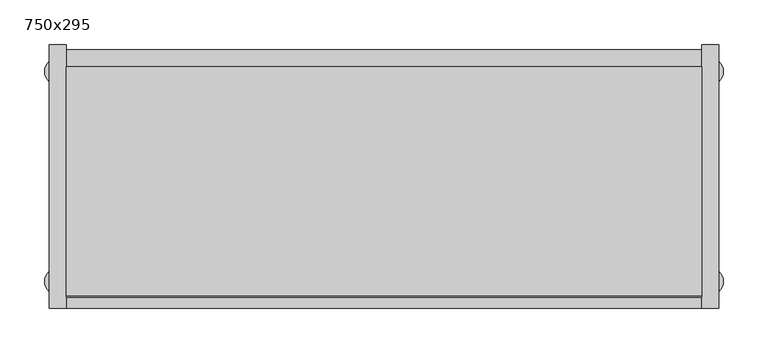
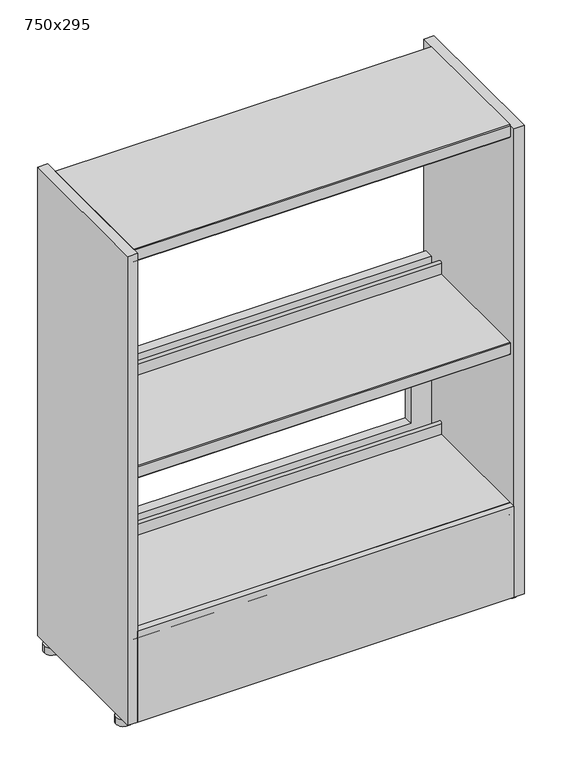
"""IFC4 building model written with IfcOpenShell, lengths in millimetres: furniture geometry, BK Library - Rondus ES - 950 : 750x295."""

from ifc_helpers import new_model, si_unit, point, frame, frame_2d, origin, origin_with_axes, place, context, project, spatial, polyline, circle_curve, trimmed, segment, composite_curve, outline, extrude, source, transform, mapped, element, save


def furniture_750x295_3e7eba69(model_context):
    return source(origin(), model_context, "Body", "SweptSolid", [
        extrude(outline(composite_curve([segment(trimmed(circle_curve(frame_2d((365.5005427, 117.4952633)), 14.4994573), [point((380.0, 117.4952633))], [point((351.0010853, 117.4952633))], False, "CARTESIAN"), True, "CONTINUOUS"), segment(trimmed(circle_curve(frame_2d((365.5005427, 117.4952633)), 14.4994573), [point((351.0010853, 117.4952633))], [point((380.0, 117.4952633))], False, "CARTESIAN"), True, "CONTINUOUS")], self_intersect=False)), origin_with_axes(), (0.0, 0.0, 1.0), 13.6999998),
        extrude(outline(composite_curve([segment(trimmed(circle_curve(frame_2d((-365.5005427, 117.4952633)), 14.4994573), [point((-380.0, 117.4952633))], [point((-351.0010853, 117.4952633))], False, "CARTESIAN"), True, "CONTINUOUS"), segment(trimmed(circle_curve(frame_2d((-365.5005427, 117.4952633)), 14.4994573), [point((-351.0010853, 117.4952633))], [point((-380.0, 117.4952633))], False, "CARTESIAN"), True, "CONTINUOUS")], self_intersect=False)), origin_with_axes(), (0.0, 0.0, 1.0), 13.6999998),
        extrude(outline(composite_curve([segment(trimmed(circle_curve(frame_2d((365.5005427, -117.4952633)), 14.4994573), [point((380.0, -117.4952633))], [point((351.0010853, -117.4952633))], False, "CARTESIAN"), True, "CONTINUOUS"), segment(trimmed(circle_curve(frame_2d((365.5005427, -117.4952633)), 14.4994573), [point((351.0010853, -117.4952633))], [point((380.0, -117.4952633))], False, "CARTESIAN"), True, "CONTINUOUS")], self_intersect=False)), origin_with_axes(), (0.0, 0.0, 1.0), 13.6999998),
        extrude(outline(composite_curve([segment(trimmed(circle_curve(frame_2d((-365.5005427, -117.4952633)), 14.4994573), [point((-380.0, -117.4952633))], [point((-351.0010853, -117.4952633))], False, "CARTESIAN"), True, "CONTINUOUS"), segment(trimmed(circle_curve(frame_2d((-365.5005427, -117.4952633)), 14.4994573), [point((-351.0010853, -117.4952633))], [point((-380.0, -117.4952633))], False, "CARTESIAN"), True, "CONTINUOUS")], self_intersect=False)), origin_with_axes(), (0.0, 0.0, 1.0), 13.6999998),
        extrude(outline(polyline([(530.699951, -356.0), (170.699951, -356.0), (170.699951, 356.0), (530.699951, 356.0), (530.699951, -356.0)]), holes=[polyline([(490.6999512, -317.5), (490.6999512, 317.5), (210.6999512, 317.5), (210.6999512, -317.5), (490.6999512, -317.5)])]), frame((0.0, 123.0, 0.0), z_axis=(0.0, 1.0, 0.0), x_axis=(0.0, 0.0, 1.0)), (0.0, 0.0, 1.0), 19.0),
        extrude(outline(polyline([(356.0, -135.2476624), (356.0, -147.5), (-356.0, -147.5), (-356.0, -135.2476624), (356.0, -135.2476624)])), frame((0.0, 0.0, 13.6999998), z_axis=(0.0, 0.0, 1.0), x_axis=(1.0, 0.0, 0.0)), (0.0, 0.0, 1.0), 181.4999514),
        extrude(outline(composite_curve([segment(polyline([(123.0, 950.0), (123.0, 948.0), (-133.75, 948.0), (-133.75, 926.5), (-121.75, 926.5), (-121.75, 925.0), (-133.75, 925.0)]), True, "CONTINUOUS"), segment(trimmed(circle_curve(frame_2d((-133.75, 926.5)), 1.5), [point((-133.75, 925.0))], [point((-135.25, 926.5))], False, "CARTESIAN"), True, "CONTINUOUS"), segment(polyline([(-135.25, 926.5), (-135.25, 948.5)]), True, "CONTINUOUS"), segment(trimmed(circle_curve(frame_2d((-133.75, 948.5)), 1.5), [point((-135.25, 948.5))], [point((-133.75, 950.0))], False, "CARTESIAN"), True, "CONTINUOUS"), segment(polyline([(-133.75, 950.0), (123.0, 950.0)]), True, "CONTINUOUS")], self_intersect=False)), frame((-356.0, 0.0, 0.0), z_axis=(1.0, 0.0, 0.0), x_axis=(0.0, 1.0, 0.0)), (0.0, 0.0, 1.0), 712.0),
        extrude(outline(composite_curve([segment(polyline([(89.75, 515.1999512), (89.75, 536.7196336)]), True, "CONTINUOUS"), segment(trimmed(circle_curve(frame_2d((93.25, 536.7196336)), 3.5), [point((89.75, 536.7196336))], [point((96.75, 536.7196336))], False, "CARTESIAN"), True, "CONTINUOUS"), segment(polyline([(96.75, 536.7196336), (96.75, 528.1999512), (95.25, 528.1999512), (95.25, 536.7020126)]), True, "CONTINUOUS"), segment(trimmed(circle_curve(frame_2d((93.25, 536.7020126)), 2.0), [point((95.25, 536.7020126))], [point((91.25, 536.7020126))], True, "CARTESIAN"), True, "CONTINUOUS"), segment(polyline([(91.25, 536.7020126), (91.25, 515.1547733)]), True, "CONTINUOUS"), segment(trimmed(circle_curve(frame_2d((89.7951779, 515.1547733)), 1.4548221), [point((91.25, 515.1547733))], [point((89.7951779, 513.6999512))], False, "CARTESIAN"), True, "CONTINUOUS"), segment(polyline([(89.7951779, 513.6999512), (-133.75, 513.6999512), (-133.75, 492.1999512), (-121.75, 492.1999512), (-121.75, 490.6999512), (-133.75, 490.6999512)]), True, "CONTINUOUS"), segment(trimmed(circle_curve(frame_2d((-133.75, 492.1999512)), 1.5), [point((-133.75, 490.6999512))], [point((-135.25, 492.1999512))], False, "CARTESIAN"), True, "CONTINUOUS"), segment(polyline([(-135.25, 492.1999512), (-135.25, 513.6999512)]), True, "CONTINUOUS"), segment(trimmed(circle_curve(frame_2d((-133.75, 513.6999512)), 1.5), [point((-135.25, 513.6999512))], [point((-133.75, 515.1999512))], False, "CARTESIAN"), True, "CONTINUOUS"), segment(polyline([(-133.75, 515.1999512), (89.75, 515.1999512)]), True, "CONTINUOUS")], self_intersect=False)), frame((-356.0, 0.0, 0.0), z_axis=(1.0, 0.0, 0.0), x_axis=(0.0, 1.0, 0.0)), (0.0, 0.0, 1.0), 712.0),
        extrude(outline(composite_curve([segment(polyline([(89.75, 195.1999512), (89.75, 216.7196336)]), True, "CONTINUOUS"), segment(trimmed(circle_curve(frame_2d((93.25, 216.7196336)), 3.5), [point((89.75, 216.7196336))], [point((96.75, 216.7196336))], False, "CARTESIAN"), True, "CONTINUOUS"), segment(polyline([(96.75, 216.7196336), (96.75, 208.1999512), (95.25, 208.1999512), (95.25, 216.7020126)]), True, "CONTINUOUS"), segment(trimmed(circle_curve(frame_2d((93.25, 216.7020126)), 2.0), [point((95.25, 216.7020126))], [point((91.25, 216.7020126))], True, "CARTESIAN"), True, "CONTINUOUS"), segment(polyline([(91.25, 216.7020126), (91.25, 195.1547733)]), True, "CONTINUOUS"), segment(trimmed(circle_curve(frame_2d((89.7951779, 195.1547733)), 1.4548221), [point((91.25, 195.1547733))], [point((89.7951779, 193.6999512))], False, "CARTESIAN"), True, "CONTINUOUS"), segment(polyline([(89.7951779, 193.6999512), (-133.75, 193.6999512), (-133.75, 172.1999512), (-121.75, 172.1999512), (-121.75, 170.6999512), (-133.75, 170.6999512)]), True, "CONTINUOUS"), segment(trimmed(circle_curve(frame_2d((-133.75, 172.1999512)), 1.5), [point((-133.75, 170.6999512))], [point((-135.25, 172.1999512))], False, "CARTESIAN"), True, "CONTINUOUS"), segment(polyline([(-135.25, 172.1999512), (-135.25, 193.6999512)]), True, "CONTINUOUS"), segment(trimmed(circle_curve(frame_2d((-133.75, 193.6999512)), 1.5), [point((-135.25, 193.6999512))], [point((-133.75, 195.1999512))], False, "CARTESIAN"), True, "CONTINUOUS"), segment(polyline([(-133.75, 195.1999512), (89.75, 195.1999512)]), True, "CONTINUOUS")], self_intersect=False)), frame((-356.0, 0.0, 0.0), z_axis=(1.0, 0.0, 0.0), x_axis=(0.0, 1.0, 0.0)), (0.0, 0.0, 1.0), 712.0),
        extrude(outline(polyline([(356.0, 147.5), (375.0, 147.5), (375.0, -147.5), (356.0, -147.5), (356.0, 147.5)])), frame((0.0, 0.0, 13.6999998), z_axis=(0.0, 0.0, 1.0), x_axis=(1.0, 0.0, 0.0)), (0.0, 0.0, 1.0), 936.3000002),
        extrude(outline(polyline([(-356.0, 147.5), (-356.0, -147.5), (-375.0, -147.5), (-375.0, 147.5), (-356.0, 147.5)])), frame((0.0, 0.0, 13.6999998), z_axis=(0.0, 0.0, 1.0), x_axis=(1.0, 0.0, 0.0)), (0.0, 0.0, 1.0), 936.3000002),
    ])


if __name__ == "__main__":
    model = new_model("IFC4")
    model_context = context("Model", 3, world=origin())
    ifc_project = project(units=[si_unit("LENGTHUNIT", "METRE", prefix="MILLI")], contexts=[model_context])
    site = spatial("IfcSite", under=ifc_project)
    building = spatial("IfcBuilding", under=site)
    placement = place(None, origin())
    furniture_750x295_shape = furniture_750x295_3e7eba69(model_context)
    element("IfcFurniture", 1, ObjectType="BK Library - Rondus ES - 950 : 750x295", at=placement, inside=building, context=model_context, shape_type="MappedRepresentation", body=[
        mapped(furniture_750x295_shape, transform((0.0, 0.0, 0.0), x_axis=(1.0, 0.0, 0.0), y_axis=(0.0, 1.0, 0.0), z_axis=(0.0, 0.0, 1.0))),
    ])
    save(model, "model.ifc")
